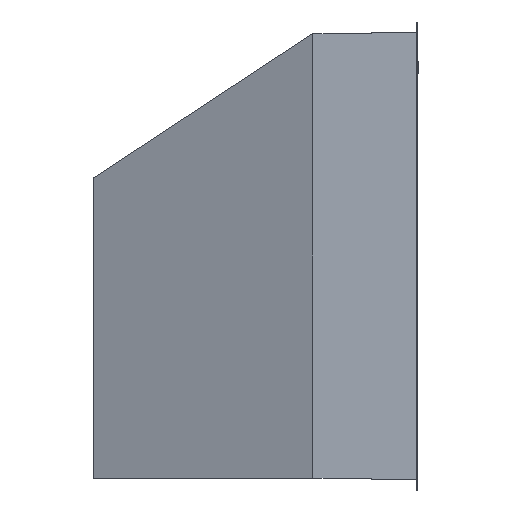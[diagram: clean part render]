
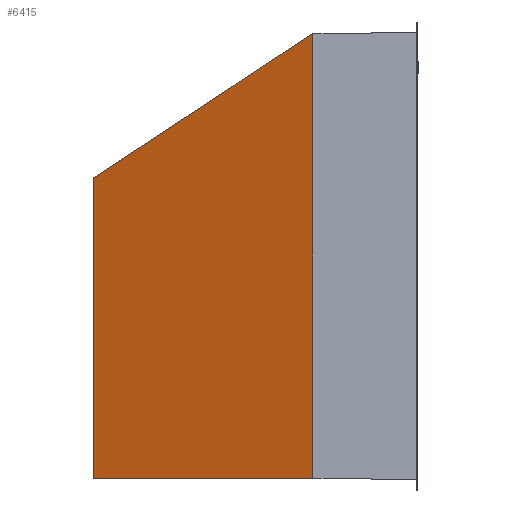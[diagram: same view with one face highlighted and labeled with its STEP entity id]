
A CAD part, left-side view. The second image highlights one B-rep face of the part: STEP entity #6415.
In plain terms, the highlighted planar face has unit normal (-0.94, 0.342, 0).
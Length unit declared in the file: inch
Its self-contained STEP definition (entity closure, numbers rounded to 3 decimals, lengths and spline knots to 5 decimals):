
#361=DIRECTION('',(-0.291,-0.799,0.526));
#362=VECTOR('',#361,11.88563);
#363=CARTESIAN_POINT('',(-19.70578,14.,13.));
#364=LINE('',#363,#362);
#477=DIRECTION('',(-0.342,-0.94,0.));
#478=VECTOR('',#477,10.10969);
#479=CARTESIAN_POINT('',(-19.70578,14.,0.));
#480=LINE('',#479,#478);
#498=DIRECTION('',(0.,0.,1.));
#499=VECTOR('',#498,13.);
#500=CARTESIAN_POINT('',(-19.70578,14.,0.));
#501=LINE('',#500,#499);
#512=DIRECTION('',(0.,0.,1.));
#513=VECTOR('',#512,19.25);
#514=CARTESIAN_POINT('',(-23.1635,4.5,0.));
#515=LINE('',#514,#513);
#5393=CARTESIAN_POINT('',(-23.1635,4.5,0.));
#5394=CARTESIAN_POINT('',(-23.1635,4.5,19.25));
#5395=VERTEX_POINT('',#5393);
#5396=VERTEX_POINT('',#5394);
#5397=CARTESIAN_POINT('',(-19.70578,14.,0.));
#5398=CARTESIAN_POINT('',(-19.70578,14.,13.));
#5399=VERTEX_POINT('',#5397);
#5400=VERTEX_POINT('',#5398);
#6403=CARTESIAN_POINT('',(-19.70578,14.,0.));
#6404=DIRECTION('',(-0.94,0.342,0.));
#6405=DIRECTION('',(-0.342,-0.94,0.));
#6406=AXIS2_PLACEMENT_3D('',#6403,#6404,#6405);
#6407=PLANE('',#6406);
#6409=ORIENTED_EDGE('',*,*,#6408,.F.);
#6410=ORIENTED_EDGE('',*,*,#6380,.F.);
#6411=ORIENTED_EDGE('',*,*,#6396,.T.);
#6412=ORIENTED_EDGE('',*,*,#6263,.T.);
#6413=EDGE_LOOP('',(#6409,#6410,#6411,#6412));
#6414=FACE_OUTER_BOUND('',#6413,.F.);
#6415=ADVANCED_FACE('',(#6414),#6407,.T.);
#6263=EDGE_CURVE('',#5400,#5396,#364,.T.);
#6380=EDGE_CURVE('',#5399,#5395,#480,.T.);
#6396=EDGE_CURVE('',#5399,#5400,#501,.T.);
#6408=EDGE_CURVE('',#5395,#5396,#515,.T.);
